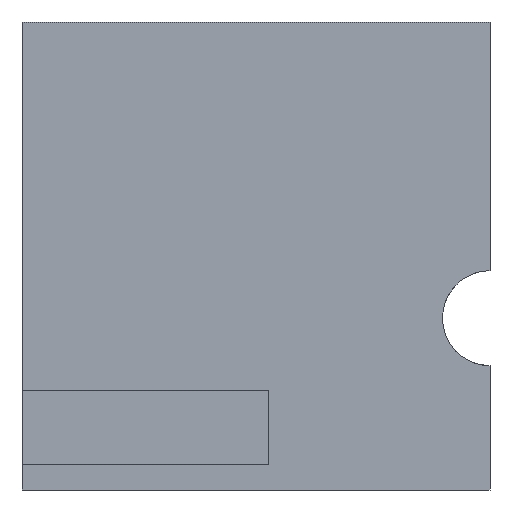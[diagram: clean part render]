
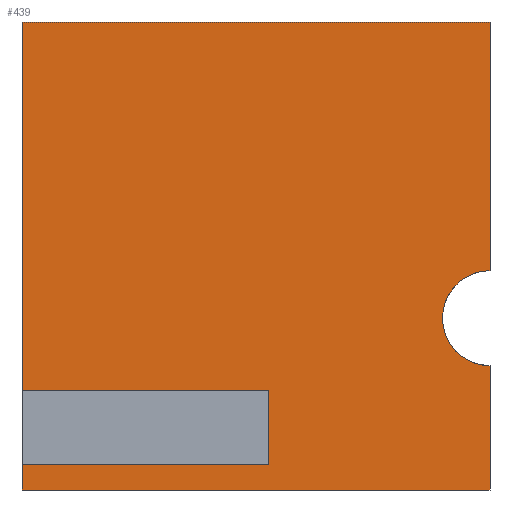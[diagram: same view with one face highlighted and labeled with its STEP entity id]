
A CAD part, front view. The second image highlights one B-rep face of the part: STEP entity #439.
In plain terms, the highlighted planar face has unit normal (0, -1, 0).
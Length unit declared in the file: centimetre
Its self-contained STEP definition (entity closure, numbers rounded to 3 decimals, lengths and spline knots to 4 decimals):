
#1 = EDGE_CURVE ( 'NONE', #269, #790, #347, .T. ) ;
#36 = CARTESIAN_POINT ( 'NONE',  ( 0., 0., 0. ) ) ;
#44 = DIRECTION ( 'NONE',  ( 1., 0., 0. ) ) ;
#48 = VERTEX_POINT ( 'NONE', #318 ) ;
#65 = DIRECTION ( 'NONE',  ( 0., 0., -1. ) ) ;
#66 = CARTESIAN_POINT ( 'NONE',  ( 1000., 0., 1000. ) ) ;
#68 = VECTOR ( 'NONE', #490, 100. ) ;
#70 = CARTESIAN_POINT ( 'NONE',  ( 1000., 0., 1000. ) ) ;
#78 = CARTESIAN_POINT ( 'NONE',  ( 0., 0., 1000. ) ) ;
#95 = DIRECTION ( 'NONE',  ( 0., 0., -1. ) ) ;
#100 = DIRECTION ( 'NONE',  ( 0., 1., 0. ) ) ;
#114 = CARTESIAN_POINT ( 'NONE',  ( 0., 0., 53.6101 ) ) ;
#134 = ORIENTED_EDGE ( 'NONE', *, *, #873, .F. ) ;
#136 = CARTESIAN_POINT ( 'NONE',  ( 527.277, 0., 53.6101 ) ) ;
#145 = DIRECTION ( 'NONE',  ( 0., 0., 1. ) ) ;
#199 = VERTEX_POINT ( 'NONE', #114 ) ;
#211 = EDGE_CURVE ( 'NONE', #269, #919, #412, .T. ) ;
#213 = DIRECTION ( 'NONE',  ( -1., 0., 0. ) ) ;
#233 = VECTOR ( 'NONE', #357, 100. ) ;
#262 = EDGE_CURVE ( 'NONE', #642, #798, #320, .T. ) ;
#269 = VERTEX_POINT ( 'NONE', #78 ) ;
#270 = LINE ( 'NONE', #793, #233 ) ;
#283 = CARTESIAN_POINT ( 'NONE',  ( 0., 0., 213.1143 ) ) ;
#284 = LINE ( 'NONE', #66, #843 ) ;
#315 = CIRCLE ( 'NONE', #602, 101.5412 ) ;
#318 = CARTESIAN_POINT ( 'NONE',  ( 1000., 0., 468.6627 ) ) ;
#320 = LINE ( 'NONE', #553, #460 ) ;
#329 = VECTOR ( 'NONE', #145, 100. ) ;
#336 = ORIENTED_EDGE ( 'NONE', *, *, #1, .T. ) ;
#347 = LINE ( 'NONE', #713, #68 ) ;
#351 = ORIENTED_EDGE ( 'NONE', *, *, #901, .T. ) ;
#352 = EDGE_LOOP ( 'NONE', ( #867, #351, #826, #711, #455, #716, #134, #421, #336, #706 ) ) ;
#357 = DIRECTION ( 'NONE',  ( -1., 0., 0. ) ) ;
#379 = LINE ( 'NONE', #825, #528 ) ;
#382 = PLANE ( 'NONE',  #537 ) ;
#385 = CARTESIAN_POINT ( 'NONE',  ( 0., 0., 1000. ) ) ;
#392 = VECTOR ( 'NONE', #65, 100. ) ;
#410 = VECTOR ( 'NONE', #213, 100. ) ;
#412 = LINE ( 'NONE', #697, #473 ) ;
#421 = ORIENTED_EDGE ( 'NONE', *, *, #211, .F. ) ;
#422 = VERTEX_POINT ( 'NONE', #877 ) ;
#439 = ADVANCED_FACE ( 'NONE', ( #835 ), #382, .F. ) ;
#455 = ORIENTED_EDGE ( 'NONE', *, *, #738, .F. ) ;
#460 = VECTOR ( 'NONE', #659, 100. ) ;
#473 = VECTOR ( 'NONE', #44, 100. ) ;
#490 = DIRECTION ( 'NONE',  ( 0., 0., -1. ) ) ;
#500 = EDGE_CURVE ( 'NONE', #199, #642, #379, .T. ) ;
#519 = EDGE_CURVE ( 'NONE', #422, #48, #315, .T. ) ;
#528 = VECTOR ( 'NONE', #95, 100. ) ;
#534 = DIRECTION ( 'NONE',  ( 0., 0., 1. ) ) ;
#537 = AXIS2_PLACEMENT_3D ( 'NONE', #385, #615, #688 ) ;
#542 = CARTESIAN_POINT ( 'NONE',  ( 1000., 0., 367.1215 ) ) ;
#553 = CARTESIAN_POINT ( 'NONE',  ( 0., 0., 0. ) ) ;
#577 = LINE ( 'NONE', #634, #410 ) ;
#581 = DIRECTION ( 'NONE',  ( 0., 0., -1. ) ) ;
#584 = LINE ( 'NONE', #725, #329 ) ;
#602 = AXIS2_PLACEMENT_3D ( 'NONE', #542, #100, #534 ) ;
#615 = DIRECTION ( 'NONE',  ( 0., 1., 0. ) ) ;
#634 = CARTESIAN_POINT ( 'NONE',  ( 527.277, 0., 213.1143 ) ) ;
#637 = VERTEX_POINT ( 'NONE', #638 ) ;
#638 = CARTESIAN_POINT ( 'NONE',  ( 527.277, 0., 213.1143 ) ) ;
#642 = VERTEX_POINT ( 'NONE', #36 ) ;
#659 = DIRECTION ( 'NONE',  ( 1., 0., 0. ) ) ;
#688 = DIRECTION ( 'NONE',  ( 0., 0., 1. ) ) ;
#697 = CARTESIAN_POINT ( 'NONE',  ( 0., 0., 1000. ) ) ;
#706 = ORIENTED_EDGE ( 'NONE', *, *, #832, .F. ) ;
#711 = ORIENTED_EDGE ( 'NONE', *, *, #262, .T. ) ;
#713 = CARTESIAN_POINT ( 'NONE',  ( 0., 0., 1000. ) ) ;
#716 = ORIENTED_EDGE ( 'NONE', *, *, #519, .T. ) ;
#725 = CARTESIAN_POINT ( 'NONE',  ( 527.277, 0., 53.6101 ) ) ;
#731 = EDGE_CURVE ( 'NONE', #792, #637, #584, .T. ) ;
#734 = CARTESIAN_POINT ( 'NONE',  ( 1000., 0., 0. ) ) ;
#738 = EDGE_CURVE ( 'NONE', #422, #798, #879, .T. ) ;
#790 = VERTEX_POINT ( 'NONE', #283 ) ;
#792 = VERTEX_POINT ( 'NONE', #136 ) ;
#793 = CARTESIAN_POINT ( 'NONE',  ( 527.277, 0., 53.6101 ) ) ;
#798 = VERTEX_POINT ( 'NONE', #734 ) ;
#802 = CARTESIAN_POINT ( 'NONE',  ( 1000., 0., 1000. ) ) ;
#825 = CARTESIAN_POINT ( 'NONE',  ( 0., 0., 1000. ) ) ;
#826 = ORIENTED_EDGE ( 'NONE', *, *, #500, .T. ) ;
#832 = EDGE_CURVE ( 'NONE', #637, #790, #577, .T. ) ;
#835 = FACE_OUTER_BOUND ( 'NONE', #352, .T. ) ;
#843 = VECTOR ( 'NONE', #581, 100. ) ;
#867 = ORIENTED_EDGE ( 'NONE', *, *, #731, .F. ) ;
#873 = EDGE_CURVE ( 'NONE', #919, #48, #284, .T. ) ;
#877 = CARTESIAN_POINT ( 'NONE',  ( 1000., 0., 265.5803 ) ) ;
#879 = LINE ( 'NONE', #70, #392 ) ;
#901 = EDGE_CURVE ( 'NONE', #792, #199, #270, .T. ) ;
#919 = VERTEX_POINT ( 'NONE', #802 ) ;
